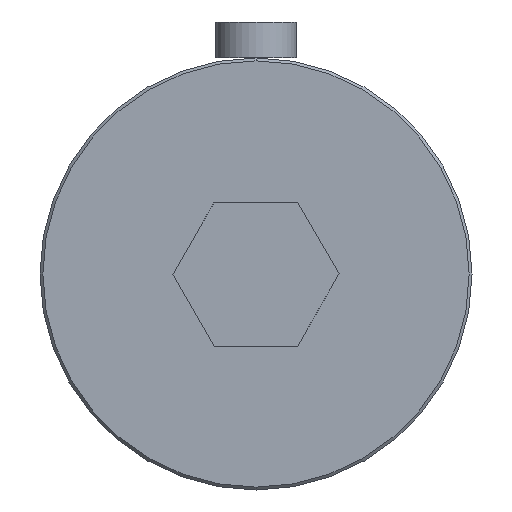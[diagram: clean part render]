
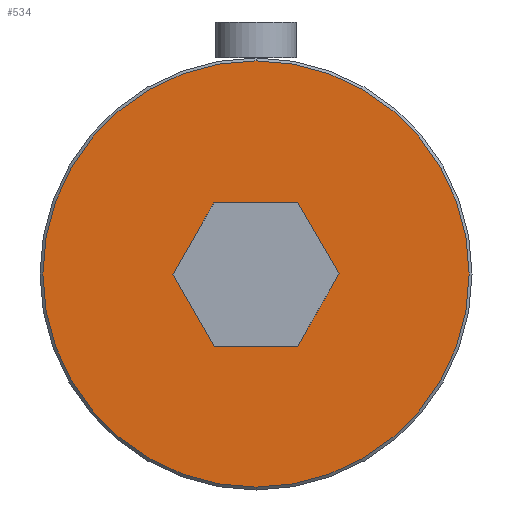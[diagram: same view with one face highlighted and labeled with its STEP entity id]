
A CAD part, front view. The second image highlights one B-rep face of the part: STEP entity #534.
In plain terms, the highlighted planar face has unit normal (0, -1, 0).
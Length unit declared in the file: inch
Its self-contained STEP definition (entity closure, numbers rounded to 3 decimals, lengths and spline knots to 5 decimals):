
#51 = EDGE_CURVE ( 'NONE', #292, #287, #655, .T. ) ;
#68 = EDGE_CURVE ( 'NONE', #304, #292, #671, .T. ) ;
#74 = EDGE_CURVE ( 'NONE', #261, #276, #677, .T. ) ;
#78 = EDGE_CURVE ( 'NONE', #287, #306, #682, .T. ) ;
#80 = EDGE_CURVE ( 'NONE', #270, #275, #683, .T. ) ;
#86 = EDGE_CURVE ( 'NONE', #306, #261, #170, .T. ) ;
#91 = EDGE_CURVE ( 'NONE', #276, #304, #156, .T. ) ;
#115 = AXIS2_PLACEMENT_3D ( 'NONE', #376, #365, #374 ) ;
#121 = AXIS2_PLACEMENT_3D ( 'NONE', #240, #241, #242 ) ;
#141 = AXIS2_PLACEMENT_3D ( 'NONE', #407, #393, #408 ) ;
#144 = EDGE_CURVE ( 'NONE', #275, #270, #189, .T. ) ;
#156 = LINE ( 'NONE', #383, #157 ) ;
#157 = VECTOR ( 'NONE', #389, 39.37008 ) ;
#170 = LINE ( 'NONE', #360, #171 ) ;
#171 = VECTOR ( 'NONE', #366, 39.37008 ) ;
#189 = CIRCLE ( 'NONE', #141, 0.74 ) ;
#212 = FACE_BOUND ( 'NONE', #694, .T. ) ;
#220 = FACE_OUTER_BOUND ( 'NONE', #687, .T. ) ;
#239 = PLANE ( 'NONE',  #121 ) ;
#240 = CARTESIAN_POINT ( 'NONE',  ( 0., 0., 0. ) ) ;
#241 = DIRECTION ( 'NONE',  ( 0., 1., 0. ) ) ;
#242 = DIRECTION ( 'NONE',  ( 0., 0., 1. ) ) ;
#261 = VERTEX_POINT ( 'NONE', #405 ) ;
#270 = VERTEX_POINT ( 'NONE', #443 ) ;
#275 = VERTEX_POINT ( 'NONE', #456 ) ;
#276 = VERTEX_POINT ( 'NONE', #464 ) ;
#287 = VERTEX_POINT ( 'NONE', #473 ) ;
#292 = VERTEX_POINT ( 'NONE', #458 ) ;
#304 = VERTEX_POINT ( 'NONE', #471 ) ;
#306 = VERTEX_POINT ( 'NONE', #470 ) ;
#308 = DIRECTION ( 'NONE',  ( -0.5, 0., 0.866 ) ) ;
#311 = CARTESIAN_POINT ( 'NONE',  ( 0.14434, 0., 0.25 ) ) ;
#333 = DIRECTION ( 'NONE',  ( 0.5, 0., 0.866 ) ) ;
#336 = CARTESIAN_POINT ( 'NONE',  ( -0.14434, 0., -0.25 ) ) ;
#338 = DIRECTION ( 'NONE',  ( 0.5, 0., -0.866 ) ) ;
#350 = CARTESIAN_POINT ( 'NONE',  ( 0.28868, 0., 0. ) ) ;
#360 = CARTESIAN_POINT ( 'NONE',  ( -0.28868, 0., 0. ) ) ;
#365 = DIRECTION ( 'NONE',  ( 0., -1., 0. ) ) ;
#366 = DIRECTION ( 'NONE',  ( -0.5, 0., -0.866 ) ) ;
#374 = DIRECTION ( 'NONE',  ( 0., 0., 1. ) ) ;
#376 = CARTESIAN_POINT ( 'NONE',  ( 0., 0., 0. ) ) ;
#379 = DIRECTION ( 'NONE',  ( -1., 0., 0. ) ) ;
#381 = CARTESIAN_POINT ( 'NONE',  ( -0.14434, 0., 0.25 ) ) ;
#383 = CARTESIAN_POINT ( 'NONE',  ( 0.14434, 0., -0.25 ) ) ;
#389 = DIRECTION ( 'NONE',  ( 1., 0., 0. ) ) ;
#393 = DIRECTION ( 'NONE',  ( 0., -1., 0. ) ) ;
#405 = CARTESIAN_POINT ( 'NONE',  ( -0.28868, 0., 0. ) ) ;
#407 = CARTESIAN_POINT ( 'NONE',  ( 0., 0., 0. ) ) ;
#408 = DIRECTION ( 'NONE',  ( 0., 0., 1. ) ) ;
#443 = CARTESIAN_POINT ( 'NONE',  ( 0., 0., 0.74 ) ) ;
#456 = CARTESIAN_POINT ( 'NONE',  ( 0., 0., -0.74 ) ) ;
#458 = CARTESIAN_POINT ( 'NONE',  ( 0.28868, 0., 0. ) ) ;
#464 = CARTESIAN_POINT ( 'NONE',  ( -0.14434, 0., -0.25 ) ) ;
#470 = CARTESIAN_POINT ( 'NONE',  ( -0.14434, 0., 0.25 ) ) ;
#471 = CARTESIAN_POINT ( 'NONE',  ( 0.14434, 0., -0.25 ) ) ;
#473 = CARTESIAN_POINT ( 'NONE',  ( 0.14434, 0., 0.25 ) ) ;
#534 = ADVANCED_FACE ( 'NONE', ( #220, #212 ), #239, .F. ) ;
#652 = VECTOR ( 'NONE', #308, 39.37008 ) ;
#655 = LINE ( 'NONE', #311, #652 ) ;
#671 = LINE ( 'NONE', #350, #674 ) ;
#674 = VECTOR ( 'NONE', #333, 39.37008 ) ;
#677 = LINE ( 'NONE', #336, #678 ) ;
#678 = VECTOR ( 'NONE', #338, 39.37008 ) ;
#680 = VECTOR ( 'NONE', #379, 39.37008 ) ;
#682 = LINE ( 'NONE', #381, #680 ) ;
#683 = CIRCLE ( 'NONE', #115, 0.74 ) ;
#687 = EDGE_LOOP ( 'NONE', ( #723, #736 ) ) ;
#694 = EDGE_LOOP ( 'NONE', ( #724, #720, #739, #731, #725, #722 ) ) ;
#720 = ORIENTED_EDGE ( 'NONE', *, *, #51, .F. ) ;
#722 = ORIENTED_EDGE ( 'NONE', *, *, #86, .F. ) ;
#723 = ORIENTED_EDGE ( 'NONE', *, *, #80, .T. ) ;
#724 = ORIENTED_EDGE ( 'NONE', *, *, #78, .F. ) ;
#725 = ORIENTED_EDGE ( 'NONE', *, *, #74, .F. ) ;
#731 = ORIENTED_EDGE ( 'NONE', *, *, #91, .F. ) ;
#736 = ORIENTED_EDGE ( 'NONE', *, *, #144, .T. ) ;
#739 = ORIENTED_EDGE ( 'NONE', *, *, #68, .F. ) ;
